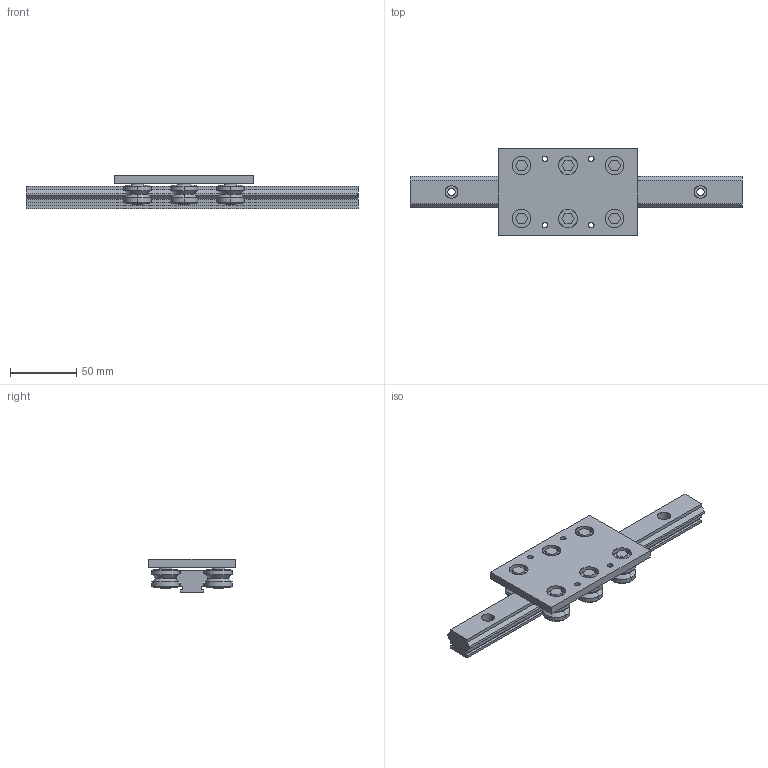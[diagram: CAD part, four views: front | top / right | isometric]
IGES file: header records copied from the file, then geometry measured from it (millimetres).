
Global section: file name: No Iges File Name specified; native system: AutoDesk Inventor R10; preprocessor: AutoDesk Inventor Iges Exporter R10; author: No Author specified; organization: No Organization specified; date: 20101224.114406; units: millimetre
Bounding box: 250 x 65 x 25 mm (x, y, z)
Surface area: 48833.7 mm2 (no closed solid volume)
Topology: 0 solids, 0 shells, 230 faces, 1444 edges, 1444 vertices
Faces by surface type: bspline 230
